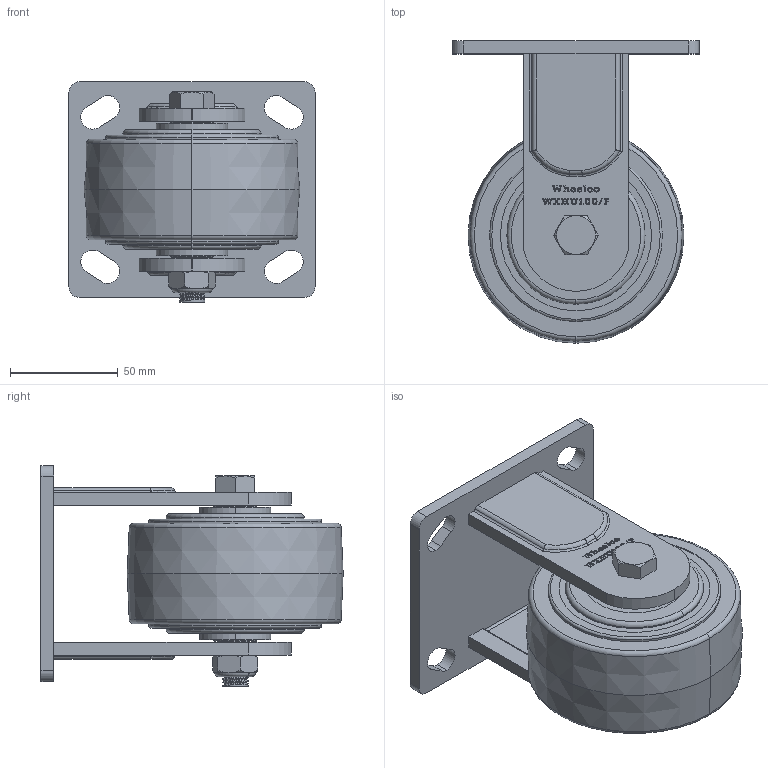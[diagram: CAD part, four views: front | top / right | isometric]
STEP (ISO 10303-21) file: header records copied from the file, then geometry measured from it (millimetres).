
FILE_DESCRIPTION (( 'STEP AP214' ), '1' );
FILE_NAME ('WXHU100-F.step', '2024-01-17T23:03:00', ( '' ), ( '' ), 'SwSTEP 2.0', 'SolidWorks 2022', '' );
FILE_SCHEMA (( 'AUTOMOTIVE_DESIGN' ));
Length unit declared in the file: millimetre
Products named in the file (7): M12NYLOC; SP33X20X3; SP20-12-62; MHU100; WXHU100-F; WX100-F; M12 X 90
Assembly tree (7 placements, depth 2):
  WXHU100-F
    WX100-F
    M12 X 90
    M12NYLOC
    SP20-12-62
    MHU100
    SP33X20X3  x2
Bounding box: 114 x 140 x 102.25 mm (x, y, z)
Volume: 532289.9 mm3; surface area: 98023.5 mm2
Topology: 7 solids, 7 shells, 559 faces, 1483 edges, 973 vertices
Faces by surface type: plane 288, cylinder 122, bspline 91, torus 38, cone 20
Entity records: 27719 total; most frequent: CARTESIAN_POINT 13350, ORIENTED_EDGE 2942, DIRECTION 2296, EDGE_CURVE 1471, VERTEX_POINT 965, VECTOR 910, LINE 910, AXIS2_PLACEMENT_3D 693
